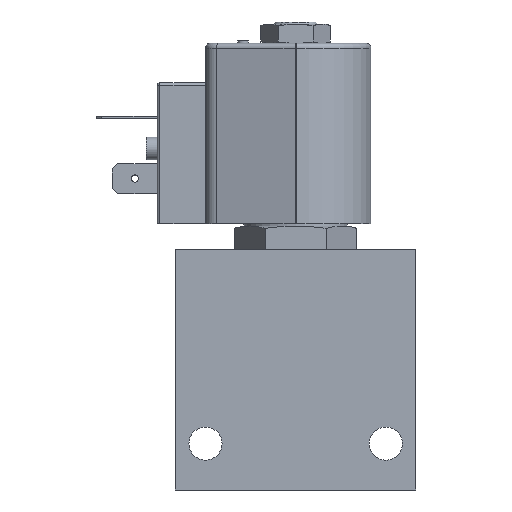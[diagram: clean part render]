
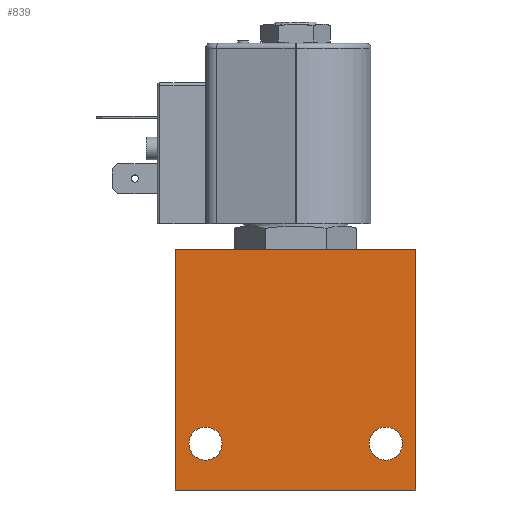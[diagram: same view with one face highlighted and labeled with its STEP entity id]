
A CAD part, front view. The second image highlights one B-rep face of the part: STEP entity #839.
In plain terms, the highlighted planar face has unit normal (0, -1, 0).
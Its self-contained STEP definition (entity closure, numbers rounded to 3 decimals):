
#839 = ADVANCED_FACE( '', ( #1696, #1697, #1698 ), #1699, .T. );
#1696 = FACE_BOUND( '', #2558, .T. );
#1697 = FACE_BOUND( '', #2559, .T. );
#1698 = FACE_OUTER_BOUND( '', #2560, .T. );
#1699 = PLANE( '', #2561 );
#2558 = EDGE_LOOP( '', ( #4107 ) );
#2559 = EDGE_LOOP( '', ( #4108 ) );
#2560 = EDGE_LOOP( '', ( #4109, #4110, #4111, #4112 ) );
#2561 = AXIS2_PLACEMENT_3D( '', #4113, #4114, #4115 );
#4107 = ORIENTED_EDGE( '', *, *, #4856, .F. );
#4108 = ORIENTED_EDGE( '', *, *, #4996, .F. );
#4109 = ORIENTED_EDGE( '', *, *, #4612, .F. );
#4110 = ORIENTED_EDGE( '', *, *, #4997, .F. );
#4111 = ORIENTED_EDGE( '', *, *, #4927, .T. );
#4112 = ORIENTED_EDGE( '', *, *, #4554, .T. );
#4113 = CARTESIAN_POINT( '', ( 25.4, -15.875, 50.8 ) );
#4114 = DIRECTION( '', ( 0., -1., 0. ) );
#4115 = DIRECTION( '', ( 0., 0., -1. ) );
#4554 = EDGE_CURVE( '', #5269, #5266, #5270, .T. );
#4612 = EDGE_CURVE( '', #5365, #5266, #5367, .T. );
#4856 = EDGE_CURVE( '', #5724, #5724, #5725, .T. );
#4927 = EDGE_CURVE( '', #5813, #5269, #5817, .T. );
#4996 = EDGE_CURVE( '', #5902, #5902, #5903, .T. );
#4997 = EDGE_CURVE( '', #5813, #5365, #5904, .T. );
#5266 = VERTEX_POINT( '', #6305 );
#5269 = VERTEX_POINT( '', #6309 );
#5270 = LINE( '', #6310, #6311 );
#5365 = VERTEX_POINT( '', #6468 );
#5367 = LINE( '', #6471, #6472 );
#5724 = VERTEX_POINT( '', #7249 );
#5725 = CIRCLE( '', #7250, 3.5 );
#5813 = VERTEX_POINT( '', #7436 );
#5817 = LINE( '', #7443, #7444 );
#5902 = VERTEX_POINT( '', #7598 );
#5903 = CIRCLE( '', #7599, 3.5 );
#5904 = LINE( '', #7600, #7601 );
#6305 = CARTESIAN_POINT( '', ( -25.4, -15.875, 0. ) );
#6309 = CARTESIAN_POINT( '', ( -25.4, -15.875, 50.8 ) );
#6310 = CARTESIAN_POINT( '', ( -25.4, -15.875, 50.8 ) );
#6311 = VECTOR( '', #7848, 1000. );
#6468 = CARTESIAN_POINT( '', ( 25.4, -15.875, 0. ) );
#6471 = CARTESIAN_POINT( '', ( 25.4, -15.875, 0. ) );
#6472 = VECTOR( '', #7947, 1000. );
#7249 = CARTESIAN_POINT( '', ( 22.55, -15.875, 9.8 ) );
#7250 = AXIS2_PLACEMENT_3D( '', #8243, #8244, #8245 );
#7436 = CARTESIAN_POINT( '', ( 25.4, -15.875, 50.8 ) );
#7443 = CARTESIAN_POINT( '', ( 25.4, -15.875, 50.8 ) );
#7444 = VECTOR( '', #8317, 1000. );
#7598 = CARTESIAN_POINT( '', ( -15.55, -15.875, 9.8 ) );
#7599 = AXIS2_PLACEMENT_3D( '', #8368, #8369, #8370 );
#7600 = CARTESIAN_POINT( '', ( 25.4, -15.875, 50.8 ) );
#7601 = VECTOR( '', #8371, 1000. );
#7848 = DIRECTION( '', ( 0., 0., -1. ) );
#7947 = DIRECTION( '', ( -1., 0., 0. ) );
#8243 = CARTESIAN_POINT( '', ( 19.05, -15.875, 9.8 ) );
#8244 = DIRECTION( '', ( 0., -1., 0. ) );
#8245 = DIRECTION( '', ( 1., 0., 0. ) );
#8317 = DIRECTION( '', ( -1., 0., 0. ) );
#8368 = CARTESIAN_POINT( '', ( -19.05, -15.875, 9.8 ) );
#8369 = DIRECTION( '', ( 0., -1., 0. ) );
#8370 = DIRECTION( '', ( 1., 0., 0. ) );
#8371 = DIRECTION( '', ( 0., 0., -1. ) );
